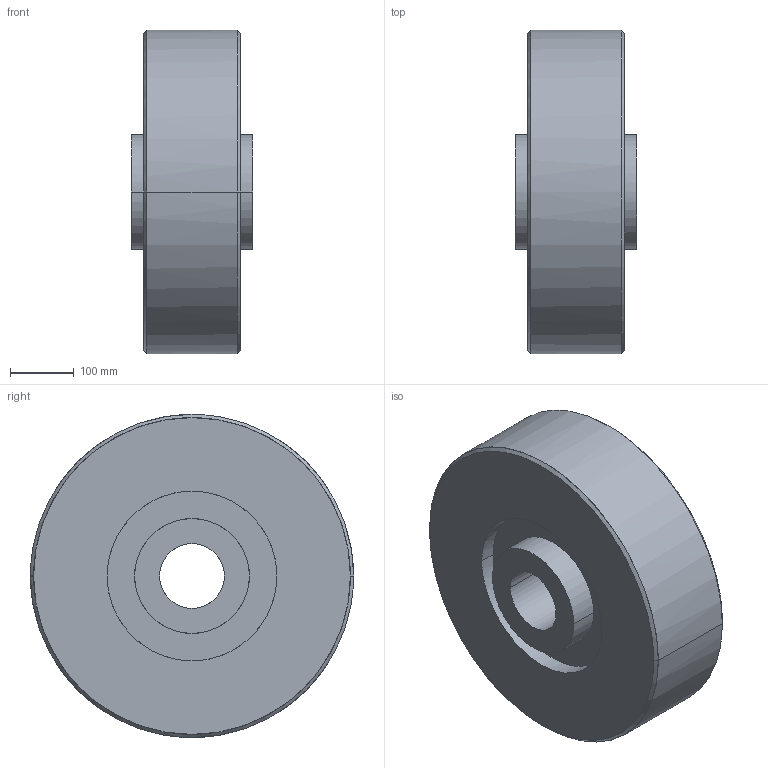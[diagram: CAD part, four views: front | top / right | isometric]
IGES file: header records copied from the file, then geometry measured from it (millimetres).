
Global section: native system: Kubotek KeyCreator; preprocessor: KCM Version 1.1.1442.0; author: KeyCreator User; organization: Self; date: 20170712.080310; units: inch
Bounding box: 190.5 x 508 x 508 mm (x, y, z)
Surface area: 776806.9 mm2 (no closed solid volume)
Topology: 0 solids, 0 shells, 22 faces, 144 edges, 144 vertices
Faces by surface type: bspline 22
